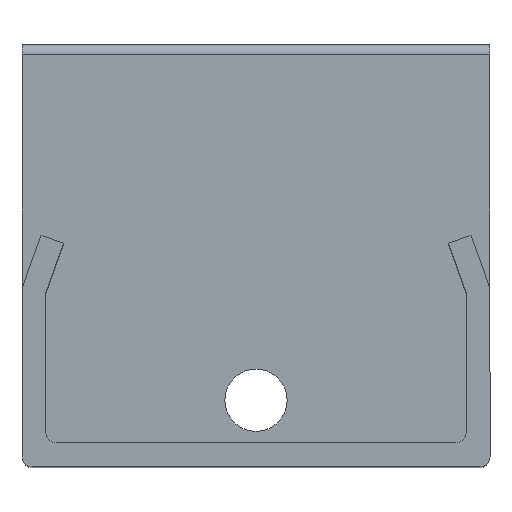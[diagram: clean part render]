
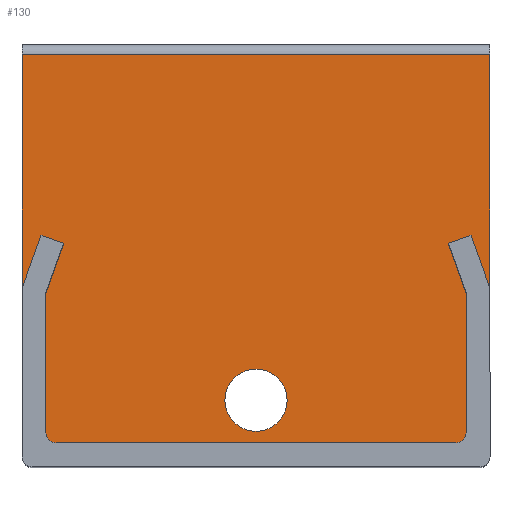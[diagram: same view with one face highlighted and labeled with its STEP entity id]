
A CAD part, top view. The second image highlights one B-rep face of the part: STEP entity #130.
In plain terms, the highlighted planar face has unit normal (0, 0, 1).
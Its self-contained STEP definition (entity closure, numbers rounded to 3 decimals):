
#8 = ORIENTED_EDGE ( 'NONE', *, *, #562, .T. ) ;
#21 = EDGE_CURVE ( 'NONE', #43, #466, #1173, .T. ) ;
#27 = CARTESIAN_POINT ( 'NONE',  ( 22.55, 37.7, 0. ) ) ;
#40 = AXIS2_PLACEMENT_3D ( 'NONE', #828, #1130, #1118 ) ;
#43 = VERTEX_POINT ( 'NONE', #180 ) ;
#73 = VECTOR ( 'NONE', #1392, 1000. ) ;
#83 = DIRECTION ( 'NONE',  ( 1., 0., 0. ) ) ;
#88 = LINE ( 'NONE', #857, #963 ) ;
#95 = DIRECTION ( 'NONE',  ( 0.338, -0.941, 0. ) ) ;
#96 = DIRECTION ( 'NONE',  ( 0., 1., 0. ) ) ;
#110 = VERTEX_POINT ( 'NONE', #425 ) ;
#130 = ADVANCED_FACE ( 'NONE', ( #343, #443 ), #1311, .F. ) ;
#138 = ORIENTED_EDGE ( 'NONE', *, *, #725, .T. ) ;
#171 = CARTESIAN_POINT ( 'NONE',  ( 18.556, 19.423, 0. ) ) ;
#174 = EDGE_CURVE ( 'NONE', #661, #764, #884, .T. ) ;
#180 = CARTESIAN_POINT ( 'NONE',  ( 20.25, 1.2, 0. ) ) ;
#184 = AXIS2_PLACEMENT_3D ( 'NONE', #289, #1171, #727 ) ;
#187 = CARTESIAN_POINT ( 'NONE',  ( 20.721, 20.2, 0. ) ) ;
#202 = VERTEX_POINT ( 'NONE', #335 ) ;
#214 = DIRECTION ( 'NONE',  ( 0., -1., 0. ) ) ;
#266 = CARTESIAN_POINT ( 'NONE',  ( 22.55, 15.1, 0. ) ) ;
#268 = ORIENTED_EDGE ( 'NONE', *, *, #174, .F. ) ;
#276 = VERTEX_POINT ( 'NONE', #1227 ) ;
#289 = CARTESIAN_POINT ( 'NONE',  ( 0., 4.4, 0. ) ) ;
#309 = CARTESIAN_POINT ( 'NONE',  ( 21.6, 37.7, 0. ) ) ;
#329 = CARTESIAN_POINT ( 'NONE',  ( -19.25, 0.2, 0. ) ) ;
#335 = CARTESIAN_POINT ( 'NONE',  ( 18.556, 19.423, 0. ) ) ;
#336 = ORIENTED_EDGE ( 'NONE', *, *, #906, .T. ) ;
#339 = VECTOR ( 'NONE', #703, 1000. ) ;
#343 = FACE_OUTER_BOUND ( 'NONE', #592, .T. ) ;
#361 = AXIS2_PLACEMENT_3D ( 'NONE', #1250, #914, #700 ) ;
#362 = VECTOR ( 'NONE', #1213, 1000. ) ;
#397 = EDGE_CURVE ( 'NONE', #560, #276, #1179, .T. ) ;
#406 = EDGE_CURVE ( 'NONE', #437, #437, #1062, .T. ) ;
#408 = CARTESIAN_POINT ( 'NONE',  ( 20.25, 1.2, 0. ) ) ;
#415 = VECTOR ( 'NONE', #904, 1000. ) ;
#421 = EDGE_CURVE ( 'NONE', #466, #202, #1165, .T. ) ;
#425 = CARTESIAN_POINT ( 'NONE',  ( -20.721, 20.2, 0. ) ) ;
#428 = EDGE_CURVE ( 'NONE', #43, #1088, #1057, .T. ) ;
#431 = CARTESIAN_POINT ( 'NONE',  ( 21.6, 37.7, 0. ) ) ;
#437 = VERTEX_POINT ( 'NONE', #447 ) ;
#443 = FACE_BOUND ( 'NONE', #1373, .T. ) ;
#447 = CARTESIAN_POINT ( 'NONE',  ( 0., 7.4, 0. ) ) ;
#454 = VECTOR ( 'NONE', #613, 1000. ) ;
#466 = VERTEX_POINT ( 'NONE', #588 ) ;
#488 = CARTESIAN_POINT ( 'NONE',  ( -22.55, 37.7, 0. ) ) ;
#499 = VECTOR ( 'NONE', #622, 1000. ) ;
#512 = ORIENTED_EDGE ( 'NONE', *, *, #428, .F. ) ;
#522 = LINE ( 'NONE', #187, #1245 ) ;
#523 = EDGE_CURVE ( 'NONE', #1065, #276, #1124, .T. ) ;
#524 = LINE ( 'NONE', #1076, #1292 ) ;
#557 = DIRECTION ( 'NONE',  ( 0., 0., -1. ) ) ;
#560 = VERTEX_POINT ( 'NONE', #1155 ) ;
#562 = EDGE_CURVE ( 'NONE', #1065, #1088, #581, .T. ) ;
#575 = AXIS2_PLACEMENT_3D ( 'NONE', #431, #557, #96 ) ;
#581 = LINE ( 'NONE', #1019, #415 ) ;
#588 = CARTESIAN_POINT ( 'NONE',  ( 20.25, 14.7, 0. ) ) ;
#591 = LINE ( 'NONE', #1276, #339 ) ;
#592 = EDGE_LOOP ( 'NONE', ( #268, #698, #138, #336, #748, #1162, #1359, #1339, #8, #512, #937, #1298, #722, #593 ) ) ;
#593 = ORIENTED_EDGE ( 'NONE', *, *, #976, .T. ) ;
#613 = DIRECTION ( 'NONE',  ( -0.338, 0.941, 0. ) ) ;
#622 = DIRECTION ( 'NONE',  ( -0.338, -0.941, 0. ) ) ;
#624 = DIRECTION ( 'NONE',  ( 0., 1., 0. ) ) ;
#633 = VERTEX_POINT ( 'NONE', #1100 ) ;
#649 = VECTOR ( 'NONE', #624, 1000. ) ;
#661 = VERTEX_POINT ( 'NONE', #27 ) ;
#671 = VECTOR ( 'NONE', #214, 1000. ) ;
#674 = CARTESIAN_POINT ( 'NONE',  ( -18.556, 19.423, 0. ) ) ;
#689 = VECTOR ( 'NONE', #83, 1000. ) ;
#697 = EDGE_CURVE ( 'NONE', #1041, #560, #983, .T. ) ;
#698 = ORIENTED_EDGE ( 'NONE', *, *, #867, .F. ) ;
#700 = DIRECTION ( 'NONE',  ( -1., 0., 0. ) ) ;
#703 = DIRECTION ( 'NONE',  ( 0., -1., 0. ) ) ;
#722 = ORIENTED_EDGE ( 'NONE', *, *, #1299, .T. ) ;
#725 = EDGE_CURVE ( 'NONE', #826, #633, #591, .T. ) ;
#727 = DIRECTION ( 'NONE',  ( 0., 1., 0. ) ) ;
#748 = ORIENTED_EDGE ( 'NONE', *, *, #985, .T. ) ;
#762 = CARTESIAN_POINT ( 'NONE',  ( 22.55, 35.4, 0. ) ) ;
#764 = VERTEX_POINT ( 'NONE', #266 ) ;
#826 = VERTEX_POINT ( 'NONE', #488 ) ;
#828 = CARTESIAN_POINT ( 'NONE',  ( -19.25, 1.2, 0. ) ) ;
#856 = DIRECTION ( 'NONE',  ( 0.941, 0.338, 0. ) ) ;
#857 = CARTESIAN_POINT ( 'NONE',  ( 22.55, 15.1, 0. ) ) ;
#867 = EDGE_CURVE ( 'NONE', #826, #661, #1070, .T. ) ;
#884 = LINE ( 'NONE', #762, #671 ) ;
#904 = DIRECTION ( 'NONE',  ( 1., 0., 0. ) ) ;
#906 = EDGE_CURVE ( 'NONE', #633, #110, #524, .T. ) ;
#914 = DIRECTION ( 'NONE',  ( 0., 0., -1. ) ) ;
#937 = ORIENTED_EDGE ( 'NONE', *, *, #21, .T. ) ;
#963 = VECTOR ( 'NONE', #95, 1000. ) ;
#971 = DIRECTION ( 'NONE',  ( 0.338, 0.941, 0. ) ) ;
#976 = EDGE_CURVE ( 'NONE', #1023, #764, #88, .T. ) ;
#983 = LINE ( 'NONE', #1421, #499 ) ;
#985 = EDGE_CURVE ( 'NONE', #110, #1041, #1303, .T. ) ;
#1015 = CARTESIAN_POINT ( 'NONE',  ( -20.721, 20.2, 0. ) ) ;
#1019 = CARTESIAN_POINT ( 'NONE',  ( -19.25, 0.2, 0. ) ) ;
#1020 = CARTESIAN_POINT ( 'NONE',  ( 19.25, 0.2, 0. ) ) ;
#1023 = VERTEX_POINT ( 'NONE', #1426 ) ;
#1041 = VERTEX_POINT ( 'NONE', #674 ) ;
#1057 = CIRCLE ( 'NONE', #361, 1. ) ;
#1062 = CIRCLE ( 'NONE', #184, 3. ) ;
#1065 = VERTEX_POINT ( 'NONE', #329 ) ;
#1070 = LINE ( 'NONE', #309, #689 ) ;
#1076 = CARTESIAN_POINT ( 'NONE',  ( -22.55, 15.1, 0. ) ) ;
#1088 = VERTEX_POINT ( 'NONE', #1020 ) ;
#1100 = CARTESIAN_POINT ( 'NONE',  ( -22.55, 15.1, 0. ) ) ;
#1118 = DIRECTION ( 'NONE',  ( -1., 0., 0. ) ) ;
#1124 = CIRCLE ( 'NONE', #40, 1. ) ;
#1130 = DIRECTION ( 'NONE',  ( 0., 0., -1. ) ) ;
#1155 = CARTESIAN_POINT ( 'NONE',  ( -20.25, 14.7, 0. ) ) ;
#1162 = ORIENTED_EDGE ( 'NONE', *, *, #697, .T. ) ;
#1165 = LINE ( 'NONE', #171, #454 ) ;
#1171 = DIRECTION ( 'NONE',  ( 0., 0., -1. ) ) ;
#1173 = LINE ( 'NONE', #408, #649 ) ;
#1179 = LINE ( 'NONE', #1376, #73 ) ;
#1213 = DIRECTION ( 'NONE',  ( 0.941, -0.338, 0. ) ) ;
#1227 = CARTESIAN_POINT ( 'NONE',  ( -20.25, 1.2, 0. ) ) ;
#1245 = VECTOR ( 'NONE', #856, 1000. ) ;
#1250 = CARTESIAN_POINT ( 'NONE',  ( 19.25, 1.2, 0. ) ) ;
#1276 = CARTESIAN_POINT ( 'NONE',  ( -22.55, 35.4, 0. ) ) ;
#1292 = VECTOR ( 'NONE', #971, 1000. ) ;
#1298 = ORIENTED_EDGE ( 'NONE', *, *, #421, .T. ) ;
#1299 = EDGE_CURVE ( 'NONE', #202, #1023, #522, .T. ) ;
#1303 = LINE ( 'NONE', #1015, #362 ) ;
#1311 = PLANE ( 'NONE',  #575 ) ;
#1312 = ORIENTED_EDGE ( 'NONE', *, *, #406, .T. ) ;
#1339 = ORIENTED_EDGE ( 'NONE', *, *, #523, .F. ) ;
#1359 = ORIENTED_EDGE ( 'NONE', *, *, #397, .T. ) ;
#1373 = EDGE_LOOP ( 'NONE', ( #1312 ) ) ;
#1376 = CARTESIAN_POINT ( 'NONE',  ( -20.25, 14.7, 0. ) ) ;
#1392 = DIRECTION ( 'NONE',  ( 0., -1., 0. ) ) ;
#1421 = CARTESIAN_POINT ( 'NONE',  ( -18.556, 19.423, 0. ) ) ;
#1426 = CARTESIAN_POINT ( 'NONE',  ( 20.721, 20.2, 0. ) ) ;
